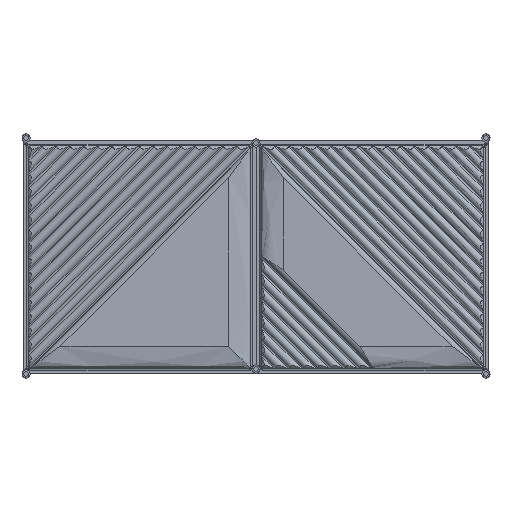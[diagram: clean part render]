
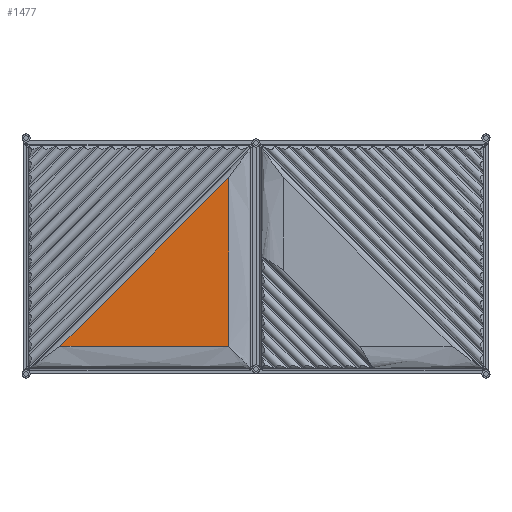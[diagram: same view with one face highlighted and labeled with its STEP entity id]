
A CAD part, top view. The second image highlights one B-rep face of the part: STEP entity #1477.
In plain terms, the highlighted planar face has unit normal (0, 0, 1).
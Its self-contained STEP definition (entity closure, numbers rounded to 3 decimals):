
#387=B_SPLINE_CURVE_WITH_KNOTS('',1,(#23176,#23177),.UNSPECIFIED.,.F.,.F.,
(2,2),(151.633,585.954),.UNSPECIFIED.);
#393=B_SPLINE_CURVE_WITH_KNOTS('',1,(#23226,#23227),.UNSPECIFIED.,.F.,.F.,
(2,2),(129.916,564.237),.UNSPECIFIED.);
#430=B_SPLINE_CURVE_WITH_KNOTS('',1,(#23900,#23901),.UNSPECIFIED.,.F.,.F.,
(2,2),(-696.866,-82.643),.UNSPECIFIED.);
#1477=ADVANCED_FACE('',(#2008),#8041,.T.);
#2008=FACE_OUTER_BOUND('',#2572,.T.);
#2572=EDGE_LOOP('',(#4706,#4707,#4708));
#4706=ORIENTED_EDGE('',*,*,#6166,.T.);
#4707=ORIENTED_EDGE('',*,*,#6204,.T.);
#4708=ORIENTED_EDGE('',*,*,#6159,.T.);
#6159=EDGE_CURVE('',#7760,#7759,#387,.T.);
#6166=EDGE_CURVE('',#7759,#7766,#393,.T.);
#6204=EDGE_CURVE('',#7766,#7760,#430,.T.);
#7759=VERTEX_POINT('',#22204);
#7760=VERTEX_POINT('',#22205);
#7766=VERTEX_POINT('',#22211);
#8041=PLANE('',#8496);
#8496=AXIS2_PLACEMENT_3D('',#21530,#8812,$);
#8812=DIRECTION('',(0.,0.,1.));
#21530=CARTESIAN_POINT('',(13435.297,-1222.128,-14.));
#22204=CARTESIAN_POINT('',(13997.953,-513.188,-14.));
#22205=CARTESIAN_POINT('',(13563.631,-513.188,-14.));
#22211=CARTESIAN_POINT('',(13997.953,-78.867,-14.));
#23176=CARTESIAN_POINT('',(13563.631,-513.188,-14.));
#23177=CARTESIAN_POINT('',(13997.953,-513.188,-14.));
#23226=CARTESIAN_POINT('',(13997.953,-513.188,-14.));
#23227=CARTESIAN_POINT('',(13997.953,-78.867,-14.));
#23900=CARTESIAN_POINT('',(13997.953,-78.867,-14.));
#23901=CARTESIAN_POINT('',(13563.631,-513.188,-14.));
